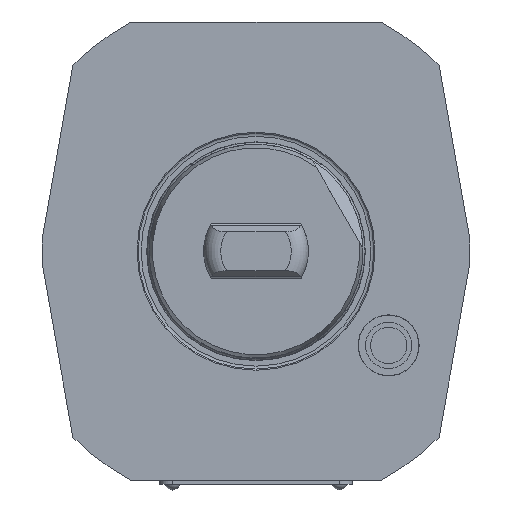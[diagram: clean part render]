
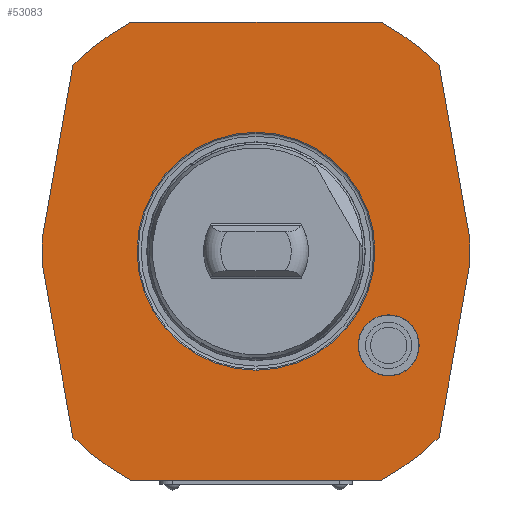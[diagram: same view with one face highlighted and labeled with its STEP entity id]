
A CAD part, left-side view. The second image highlights one B-rep face of the part: STEP entity #53083.
In plain terms, the highlighted planar face has unit normal (-1, 0, 0).
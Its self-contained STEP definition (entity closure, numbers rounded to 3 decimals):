
#23085=PLANE('',#51706);
#23549=CIRCLE('',#51705,27.8);
#23550=CIRCLE('',#51707,61.);
#23551=CIRCLE('',#51708,61.);
#23552=CIRCLE('',#51709,61.);
#23553=CIRCLE('',#51710,61.);
#23554=CIRCLE('',#51711,7.135);
#24093=VECTOR('',#35997,1.);
#24094=VECTOR('',#35998,1.);
#24095=VECTOR('',#35999,1.);
#24096=VECTOR('',#36002,1.);
#24097=VECTOR('',#36005,1.);
#24098=VECTOR('',#36006,1.);
#24099=VECTOR('',#36007,1.);
#24100=VECTOR('',#36010,1.);
#24992=LINE('',#40043,#24093);
#24993=LINE('',#40045,#24094);
#24994=LINE('',#40047,#24095);
#24995=LINE('',#40051,#24096);
#24996=LINE('',#40055,#24097);
#24997=LINE('',#40057,#24098);
#24998=LINE('',#40059,#24099);
#24999=LINE('',#40062,#24100);
#26017=ORIENTED_EDGE('',*,*,#31938,.T.);
#26018=ORIENTED_EDGE('',*,*,#31939,.T.);
#26019=ORIENTED_EDGE('',*,*,#31940,.T.);
#26020=ORIENTED_EDGE('',*,*,#31941,.T.);
#26021=ORIENTED_EDGE('',*,*,#31942,.T.);
#26022=ORIENTED_EDGE('',*,*,#31943,.T.);
#26023=ORIENTED_EDGE('',*,*,#31944,.T.);
#26024=ORIENTED_EDGE('',*,*,#31945,.T.);
#26025=ORIENTED_EDGE('',*,*,#31946,.T.);
#26026=ORIENTED_EDGE('',*,*,#31947,.T.);
#26027=ORIENTED_EDGE('',*,*,#31948,.T.);
#26028=ORIENTED_EDGE('',*,*,#31949,.T.);
#26029=ORIENTED_EDGE('',*,*,#31950,.F.);
#26030=ORIENTED_EDGE('',*,*,#31937,.F.);
#30557=VERTEX_POINT('',#40036);
#30558=VERTEX_POINT('',#40039);
#30559=VERTEX_POINT('',#40040);
#30560=VERTEX_POINT('',#40042);
#30561=VERTEX_POINT('',#40044);
#30562=VERTEX_POINT('',#40046);
#30563=VERTEX_POINT('',#40048);
#30564=VERTEX_POINT('',#40050);
#30565=VERTEX_POINT('',#40052);
#30566=VERTEX_POINT('',#40054);
#30567=VERTEX_POINT('',#40056);
#30568=VERTEX_POINT('',#40058);
#30569=VERTEX_POINT('',#40060);
#30570=VERTEX_POINT('',#40063);
#31937=EDGE_CURVE('',#30557,#30557,#23549,.T.);
#31938=EDGE_CURVE('',#30558,#30559,#23550,.T.);
#31939=EDGE_CURVE('',#30559,#30560,#24992,.T.);
#31940=EDGE_CURVE('',#30560,#30561,#24993,.T.);
#31941=EDGE_CURVE('',#30561,#30562,#24994,.T.);
#31942=EDGE_CURVE('',#30562,#30563,#23551,.T.);
#31943=EDGE_CURVE('',#30563,#30564,#24995,.T.);
#31944=EDGE_CURVE('',#30564,#30565,#23552,.T.);
#31945=EDGE_CURVE('',#30565,#30566,#24996,.T.);
#31946=EDGE_CURVE('',#30566,#30567,#24997,.T.);
#31947=EDGE_CURVE('',#30567,#30568,#24998,.T.);
#31948=EDGE_CURVE('',#30568,#30569,#23553,.T.);
#31949=EDGE_CURVE('',#30569,#30558,#24999,.T.);
#31950=EDGE_CURVE('',#30570,#30570,#23554,.T.);
#33900=EDGE_LOOP('',(#26017,#26018,#26019,#26020,#26021,#26022,#26023,#26024,
#26025,#26026,#26027,#26028));
#33901=EDGE_LOOP('',(#26029));
#33902=EDGE_LOOP('',(#26030));
#34876=FACE_BOUND('',#33900,.T.);
#34877=FACE_BOUND('',#33901,.T.);
#34878=FACE_BOUND('',#33902,.T.);
#35991=DIRECTION('',(-1.,0.,0.));
#35992=DIRECTION('',(0.,24.076,-13.9));
#35993=DIRECTION('',(-1.,0.,0.));
#35994=DIRECTION('',(0.,1.,0.));
#35995=DIRECTION('',(-1.,0.,0.));
#35996=DIRECTION('',(0.,61.,0.));
#35997=DIRECTION('',(0.,7.196,-40.809));
#35998=DIRECTION('',(0.,0.,-5.302));
#35999=DIRECTION('',(0.,-7.196,-40.809));
#36000=DIRECTION('',(-1.,0.,0.));
#36001=DIRECTION('',(0.,61.,0.));
#36002=DIRECTION('',(0.,-58.609,0.));
#36003=DIRECTION('',(-1.,0.,0.));
#36004=DIRECTION('',(0.,61.,0.));
#36005=DIRECTION('',(0.,-7.196,40.809));
#36006=DIRECTION('',(0.,0.,5.302));
#36007=DIRECTION('',(0.,7.196,40.809));
#36008=DIRECTION('',(-1.,0.,0.));
#36009=DIRECTION('',(0.,61.,0.));
#36010=DIRECTION('',(0.,58.609,0.));
#36011=DIRECTION('',(-1.,0.,0.));
#36012=DIRECTION('',(0.,7.135,0.));
#40036=CARTESIAN_POINT('',(0.,24.076,-13.9));
#40037=CARTESIAN_POINT('',(0.,0.,0.));
#40038=CARTESIAN_POINT('',(0.,29.304,53.5));
#40039=CARTESIAN_POINT('',(0.,29.304,53.5));
#40040=CARTESIAN_POINT('',(0.,42.804,43.46));
#40041=CARTESIAN_POINT('',(0.,0.,0.));
#40042=CARTESIAN_POINT('',(0.,50.,2.651));
#40043=CARTESIAN_POINT('',(0.,42.804,43.46));
#40044=CARTESIAN_POINT('',(0.,50.,-2.651));
#40045=CARTESIAN_POINT('',(0.,50.,2.651));
#40046=CARTESIAN_POINT('',(0.,42.804,-43.46));
#40047=CARTESIAN_POINT('',(0.,50.,-2.651));
#40048=CARTESIAN_POINT('',(0.,29.304,-53.5));
#40049=CARTESIAN_POINT('',(0.,0.,0.));
#40050=CARTESIAN_POINT('',(0.,-29.304,-53.5));
#40051=CARTESIAN_POINT('',(0.,29.304,-53.5));
#40052=CARTESIAN_POINT('',(0.,-42.804,-43.46));
#40053=CARTESIAN_POINT('',(0.,0.,0.));
#40054=CARTESIAN_POINT('',(0.,-50.,-2.651));
#40055=CARTESIAN_POINT('',(0.,-42.804,-43.46));
#40056=CARTESIAN_POINT('',(0.,-50.,2.651));
#40057=CARTESIAN_POINT('',(0.,-50.,-2.651));
#40058=CARTESIAN_POINT('',(0.,-42.804,43.46));
#40059=CARTESIAN_POINT('',(0.,-50.,2.651));
#40060=CARTESIAN_POINT('',(0.,-29.304,53.5));
#40061=CARTESIAN_POINT('',(0.,0.,0.));
#40062=CARTESIAN_POINT('',(0.,-29.304,53.5));
#40063=CARTESIAN_POINT('',(0.,-23.865,-22.));
#40064=CARTESIAN_POINT('',(0.,-31.,-22.));
#51705=AXIS2_PLACEMENT_3D('',#40037,#35991,#35992);
#51706=AXIS2_PLACEMENT_3D('',#40038,#35993,#35994);
#51707=AXIS2_PLACEMENT_3D('',#40041,#35995,#35996);
#51708=AXIS2_PLACEMENT_3D('',#40049,#36000,#36001);
#51709=AXIS2_PLACEMENT_3D('',#40053,#36003,#36004);
#51710=AXIS2_PLACEMENT_3D('',#40061,#36008,#36009);
#51711=AXIS2_PLACEMENT_3D('',#40064,#36011,#36012);
#53083=ADVANCED_FACE('',(#34876,#34877,#34878),#23085,.T.);
